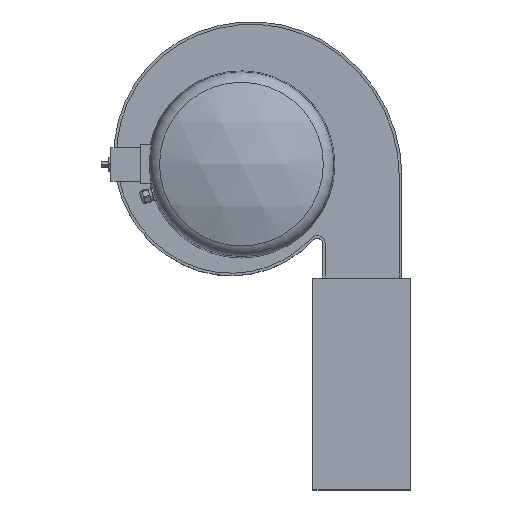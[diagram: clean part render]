
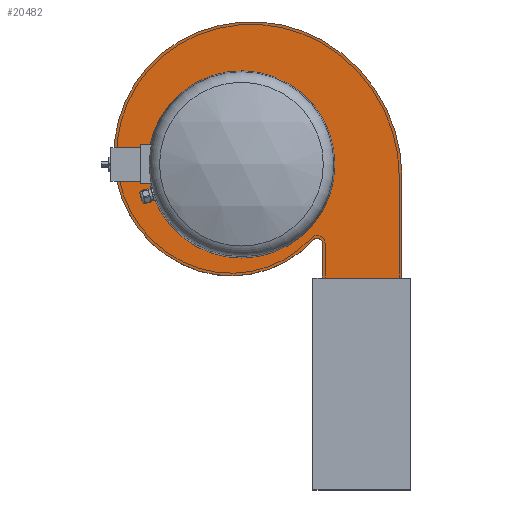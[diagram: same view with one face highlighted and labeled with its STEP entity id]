
A CAD part, top view. The second image highlights one B-rep face of the part: STEP entity #20482.
In plain terms, the highlighted planar face has unit normal (0, 0, 1).
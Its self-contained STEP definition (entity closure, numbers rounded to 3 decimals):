
#1571=CIRCLE('',#20954,180.);
#1689=CIRCLE('',#21438,302.683);
#1690=CIRCLE('',#21439,275.812);
#1691=CIRCLE('',#21440,253.209);
#1692=CIRCLE('',#21441,233.749);
#1693=CIRCLE('',#21442,215.217);
#1694=CIRCLE('',#21443,10.);
#1860=FACE_BOUND('',#4204,.T.);
#2945=FACE_OUTER_BOUND('',#4203,.T.);
#4203=EDGE_LOOP('',(#18148,#18149,#18150,#18151,#18152,#18153,#18154,#18155,
#18156));
#4204=EDGE_LOOP('',(#18157));
#5062=LINE('',#39341,#6805);
#5947=LINE('',#41575,#7690);
#5948=LINE('',#41588,#7691);
#6805=VECTOR('',#23073,10.);
#7690=VECTOR('',#25066,10.);
#7691=VECTOR('',#25079,10.);
#8919=VERTEX_POINT('',#39338);
#8920=VERTEX_POINT('',#39340);
#9436=VERTEX_POINT('',#40448);
#9609=VERTEX_POINT('',#41574);
#9610=VERTEX_POINT('',#41576);
#9611=VERTEX_POINT('',#41578);
#9612=VERTEX_POINT('',#41580);
#9613=VERTEX_POINT('',#41582);
#9614=VERTEX_POINT('',#41584);
#9615=VERTEX_POINT('',#41586);
#11431=EDGE_CURVE('',#8920,#8919,#5062,.T.);
#11953=EDGE_CURVE('',#9436,#9436,#1571,.T.);
#12459=EDGE_CURVE('',#9609,#8919,#5947,.T.);
#12460=EDGE_CURVE('',#9610,#9609,#1689,.T.);
#12461=EDGE_CURVE('',#9611,#9610,#1690,.T.);
#12462=EDGE_CURVE('',#9612,#9611,#1691,.T.);
#12463=EDGE_CURVE('',#9613,#9612,#1692,.T.);
#12464=EDGE_CURVE('',#9614,#9613,#1693,.T.);
#12465=EDGE_CURVE('',#9615,#9614,#1694,.T.);
#12466=EDGE_CURVE('',#8920,#9615,#5948,.T.);
#18148=ORIENTED_EDGE('',*,*,#11431,.T.);
#18149=ORIENTED_EDGE('',*,*,#12459,.F.);
#18150=ORIENTED_EDGE('',*,*,#12460,.F.);
#18151=ORIENTED_EDGE('',*,*,#12461,.F.);
#18152=ORIENTED_EDGE('',*,*,#12462,.F.);
#18153=ORIENTED_EDGE('',*,*,#12463,.F.);
#18154=ORIENTED_EDGE('',*,*,#12464,.F.);
#18155=ORIENTED_EDGE('',*,*,#12465,.F.);
#18156=ORIENTED_EDGE('',*,*,#12466,.F.);
#18157=ORIENTED_EDGE('',*,*,#11953,.T.);
#18714=PLANE('',#21437);
#20482=ADVANCED_FACE('',(#2945,#1860),#18714,.F.);
#20954=AXIS2_PLACEMENT_3D('',#40449,#23735,#23736);
#21437=AXIS2_PLACEMENT_3D('',#41573,#25064,#25065);
#21438=AXIS2_PLACEMENT_3D('',#41577,#25067,#25068);
#21439=AXIS2_PLACEMENT_3D('',#41579,#25069,#25070);
#21440=AXIS2_PLACEMENT_3D('',#41581,#25071,#25072);
#21441=AXIS2_PLACEMENT_3D('',#41583,#25073,#25074);
#21442=AXIS2_PLACEMENT_3D('',#41585,#25075,#25076);
#21443=AXIS2_PLACEMENT_3D('',#41587,#25077,#25078);
#23073=DIRECTION('',(1.,0.,0.));
#23735=DIRECTION('center_axis',(0.,0.,-1.));
#23736=DIRECTION('ref_axis',(1.,0.,0.));
#25064=DIRECTION('center_axis',(0.,0.,-1.));
#25065=DIRECTION('ref_axis',(-1.,0.,0.));
#25066=DIRECTION('',(0.,-1.,0.));
#25067=DIRECTION('center_axis',(0.,0.,-1.));
#25068=DIRECTION('ref_axis',(1.,0.,0.));
#25069=DIRECTION('center_axis',(0.,0.,-1.));
#25070=DIRECTION('ref_axis',(0.495,0.869,0.));
#25071=DIRECTION('center_axis',(0.,0.,-1.));
#25072=DIRECTION('ref_axis',(-0.513,0.859,0.));
#25073=DIRECTION('center_axis',(0.,0.,-1.));
#25074=DIRECTION('ref_axis',(-0.999,-0.043,0.));
#25075=DIRECTION('center_axis',(0.,0.,-1.));
#25076=DIRECTION('ref_axis',(-0.439,-0.898,0.));
#25077=DIRECTION('center_axis',(0.,0.,1.));
#25078=DIRECTION('ref_axis',(-1.,0.,0.));
#25079=DIRECTION('',(0.,1.,0.));
#39338=CARTESIAN_POINT('',(309.,-218.5,2.));
#39340=CARTESIAN_POINT('',(156.,-218.5,2.));
#39341=CARTESIAN_POINT('',(180.616,-218.5,2.));
#40448=CARTESIAN_POINT('',(-180.,0.,2.));
#40449=CARTESIAN_POINT('Origin',(0.,0.,
2.));
#41573=CARTESIAN_POINT('Origin',(58.334,-58.339,2.));
#41574=CARTESIAN_POINT('',(309.,-24.345,2.));
#41575=CARTESIAN_POINT('',(309.,-220.,2.));
#41576=CARTESIAN_POINT('',(156.,238.737,2.));
#41577=CARTESIAN_POINT('Origin',(6.317,-24.345,2.));
#41578=CARTESIAN_POINT('',(-121.76,235.84,2.));
#41579=CARTESIAN_POINT('Origin',(19.605,-0.99,2.));
#41580=CARTESIAN_POINT('',(-244.956,7.563,2.));
#41581=CARTESIAN_POINT('Origin',(8.02,18.419,2.));
#41582=CARTESIAN_POINT('',(-114.085,-192.413,2.));
#41583=CARTESIAN_POINT('Origin',(-11.422,17.585,2.));
#41584=CARTESIAN_POINT('',(138.649,-144.969,2.));
#41585=CARTESIAN_POINT('Origin',(-19.561,0.935,2.));
#41586=CARTESIAN_POINT('',(156.,-151.748,2.));
#41587=CARTESIAN_POINT('Origin',(146.,-151.748,2.));
#41588=CARTESIAN_POINT('',(156.,-151.748,2.));
